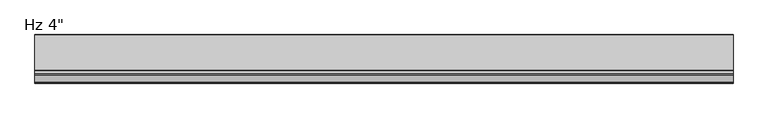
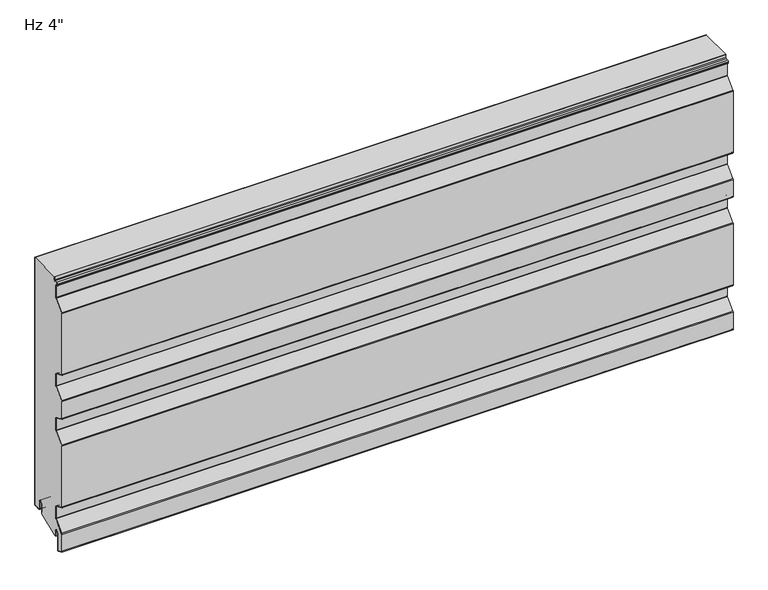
"""IFC4 building model written with IfcOpenShell, lengths in millimetres: plate geometry."""

from ifc_helpers import new_model, si_unit, point, frame, frame_2d, origin, place, context, project, spatial, polyline, circle_curve, trimmed, segment, composite_curve, outline, extrude, source, transform, mapped, element, save


def plate_ea53c9ee(model_context):
    return source(origin(), model_context, "Body", "SweptSolid", [
        extrude(outline(composite_curve([segment(polyline([(-26.4011912, 19.05), (-26.4011912, -3.1976612), (-74.633822, -23.01875), (-76.7886912, -23.01875), (-76.7886912, -11.90625)]), True, "CONTINUOUS"), segment(trimmed(circle_curve(frame_2d((-81.7574412, -11.90625)), 4.96875), [point((-76.7886912, -11.90625))], [point((-86.7261912, -11.90625))], True, "CARTESIAN"), True, "CONTINUOUS"), segment(polyline([(-86.7261912, -11.90625), (-86.7261912, -48.8194049)]), True, "CONTINUOUS"), segment(trimmed(circle_curve(frame_2d((-88.1074412, -48.8194049)), 1.38125), [point((-86.7261912, -48.8194049))], [point((-88.6666208, -50.0824052))], False, "CARTESIAN"), True, "CONTINUOUS"), segment(polyline([(-88.6666208, -50.0824052), (-99.7779296, -45.1629946)]), True, "CONTINUOUS"), segment(trimmed(circle_curve(frame_2d((-99.21875, -43.8999943)), 1.38125), [point((-99.7779296, -45.1629946))], [point((-100.6, -43.8999943))], False, "CARTESIAN"), True, "CONTINUOUS"), segment(polyline([(-100.6, -43.8999943), (-100.6, -5.0536946)]), True, "CONTINUOUS"), segment(trimmed(circle_curve(frame_2d((-98.5012, -5.0536946)), 2.0988), [point((-100.6, -5.0536946))], [point((-100.0092077, -3.5939431))], False, "CARTESIAN"), True, "CONTINUOUS"), segment(polyline([(-100.0092077, -3.5939431), (-79.8145567, 17.2682996)]), True, "CONTINUOUS"), segment(trimmed(circle_curve(frame_2d((-81.6737, 19.0679503)), 2.5875), [point((-79.8145567, 17.2682996))], [point((-79.0862, 19.0679503))], True, "CARTESIAN"), True, "CONTINUOUS"), segment(polyline([(-79.0862, 19.0679503), (-79.0862, 45.5917981)]), True, "CONTINUOUS"), segment(trimmed(circle_curve(frame_2d((-81.6737, 45.5917981)), 2.5875), [point((-79.0862, 45.5917981))], [point((-80.6261871, 47.9577806))], True, "CARTESIAN"), True, "CONTINUOUS"), segment(polyline([(-80.6261871, 47.9577806), (-99.7779296, 56.4370054)]), True, "CONTINUOUS"), segment(trimmed(circle_curve(frame_2d((-99.21875, 57.7000057)), 1.38125), [point((-99.7779296, 56.4370054))], [point((-100.6, 57.7000057))], False, "CARTESIAN"), True, "CONTINUOUS"), segment(polyline([(-100.6, 57.7000057), (-100.6, 198.4367131)]), True, "CONTINUOUS"), segment(trimmed(circle_curve(frame_2d((-99.21875, 198.4367131)), 1.38125), [point((-100.6, 198.4367131))], [point((-100.2111912, 199.3973962))], False, "CARTESIAN"), True, "CONTINUOUS"), segment(polyline([(-100.2111912, 199.3973962), (-79.8145567, 220.4682996)]), True, "CONTINUOUS"), segment(trimmed(circle_curve(frame_2d((-81.6737, 222.2679503)), 2.5875), [point((-79.8145567, 220.4682996))], [point((-79.0862, 222.2679503))], True, "CARTESIAN"), True, "CONTINUOUS"), segment(polyline([(-79.0862, 222.2679503), (-79.0862, 248.7917981)]), True, "CONTINUOUS"), segment(trimmed(circle_curve(frame_2d((-81.6737, 248.7917981)), 2.5875), [point((-79.0862, 248.7917981))], [point((-80.6261871, 251.1577806))], True, "CARTESIAN"), True, "CONTINUOUS"), segment(polyline([(-80.6261871, 251.1577806), (-99.7779296, 259.6370054)]), True, "CONTINUOUS"), segment(trimmed(circle_curve(frame_2d((-99.21875, 260.9000057)), 1.38125), [point((-99.7779296, 259.6370054))], [point((-100.6, 260.9000057))], False, "CARTESIAN"), True, "CONTINUOUS"), segment(polyline([(-100.6, 260.9000057), (-100.6, 300.0367131)]), True, "CONTINUOUS"), segment(trimmed(circle_curve(frame_2d((-99.21875, 300.0367131)), 1.38125), [point((-100.6, 300.0367131))], [point((-100.2111912, 300.9973962))], False, "CARTESIAN"), True, "CONTINUOUS"), segment(polyline([(-100.2111912, 300.9973962), (-79.8145567, 322.0682996)]), True, "CONTINUOUS"), segment(trimmed(circle_curve(frame_2d((-81.6737, 323.8679503)), 2.5875), [point((-79.8145567, 322.0682996))], [point((-79.0862, 323.8679503))], True, "CARTESIAN"), True, "CONTINUOUS"), segment(polyline([(-79.0862, 323.8679503), (-79.0862, 350.3917981)]), True, "CONTINUOUS"), segment(trimmed(circle_curve(frame_2d((-81.6737, 350.3917981)), 2.5875), [point((-79.0862, 350.3917981))], [point((-80.6261871, 352.7577806))], True, "CARTESIAN"), True, "CONTINUOUS"), segment(polyline([(-80.6261871, 352.7577806), (-99.7779296, 361.2370054)]), True, "CONTINUOUS"), segment(trimmed(circle_curve(frame_2d((-99.21875, 362.5000057)), 1.38125), [point((-99.7779296, 361.2370054))], [point((-100.6, 362.5000057))], False, "CARTESIAN"), True, "CONTINUOUS"), segment(polyline([(-100.6, 362.5000057), (-100.6, 503.2367131)]), True, "CONTINUOUS"), segment(trimmed(circle_curve(frame_2d((-99.21875, 503.2367131)), 1.38125), [point((-100.6, 503.2367131))], [point((-100.2111912, 504.1973962))], False, "CARTESIAN"), True, "CONTINUOUS"), segment(polyline([(-100.2111912, 504.1973962), (-79.8145567, 525.2682996)]), True, "CONTINUOUS"), segment(trimmed(circle_curve(frame_2d((-81.6737, 527.0679503)), 2.5875), [point((-79.8145567, 525.2682996))], [point((-79.0862, 527.0679503))], True, "CARTESIAN"), True, "CONTINUOUS"), segment(polyline([(-79.0862, 527.0679503), (-79.0862, 553.5917981)]), True, "CONTINUOUS"), segment(trimmed(circle_curve(frame_2d((-81.6737, 553.5917981)), 2.5875), [point((-79.0862, 553.5917981))], [point((-80.6261871, 555.9577806))], True, "CARTESIAN"), True, "CONTINUOUS"), segment(polyline([(-80.6261871, 555.9577806), (-82.3166208, 556.7062016)]), True, "CONTINUOUS"), segment(trimmed(circle_curve(frame_2d((-81.7574412, 557.9692019)), 1.38125), [point((-82.3166208, 556.7062016))], [point((-83.1386912, 557.9692019))], False, "CARTESIAN"), True, "CONTINUOUS"), segment(polyline([(-83.1386912, 557.9692019), (-83.1386912, 560.2967085)]), True, "CONTINUOUS"), segment(trimmed(circle_curve(frame_2d((-81.7574412, 560.2967085)), 1.38125), [point((-83.1386912, 560.2967085))], [point((-81.8297302, 561.6760655))], False, "CARTESIAN"), True, "CONTINUOUS"), segment(polyline([(-81.8297302, 561.6760655), (-76.0657719, 561.9781418)]), True, "CONTINUOUS"), segment(trimmed(circle_curve(frame_2d((-76.2011912, 564.5620957)), 2.5875), [point((-76.0657719, 561.9781418))], [point((-73.6136912, 564.5620957))], True, "CARTESIAN"), True, "CONTINUOUS"), segment(polyline([(-73.6136912, 564.5620957), (-73.6136912, 571.2), (-1.0011912, 571.2), (-1.0011912, 3.175)]), True, "CONTINUOUS"), segment(trimmed(circle_curve(frame_2d((-2.3824412, 3.175)), 1.38125), [point((-1.0011912, 3.175))], [point((-2.3824412, 1.79375))], False, "CARTESIAN"), True, "CONTINUOUS"), segment(polyline([(-2.3824412, 1.79375), (-15.0824412, 1.79375)]), True, "CONTINUOUS"), segment(trimmed(circle_curve(frame_2d((-15.0824412, 3.175)), 1.38125), [point((-15.0824412, 1.79375))], [point((-16.4636912, 3.175))], False, "CARTESIAN"), True, "CONTINUOUS"), segment(polyline([(-16.4636912, 3.175), (-16.4636912, 19.05)]), True, "CONTINUOUS"), segment(trimmed(circle_curve(frame_2d((-21.4324412, 19.05)), 4.96875), [point((-16.4636912, 19.05))], [point((-26.4011912, 19.05))], True, "CARTESIAN"), True, "CONTINUOUS")], self_intersect=False)), frame((-730.0, 0.0, 0.0), z_axis=(1.0, 0.0, 0.0), x_axis=(0.0, 1.0, 0.0)), (0.0, 0.0, 1.0), 1460.0),
        extrude(outline(composite_curve([segment(polyline([(-25.4, 0.79375), (-26.4, 0.79375), (-26.4, 19.05)]), True, "CONTINUOUS"), segment(trimmed(circle_curve(frame_2d((-21.43125, 19.05)), 4.96875), [point((-26.4, 19.05))], [point((-16.4625, 19.05))], False, "CARTESIAN"), True, "CONTINUOUS"), segment(polyline([(-16.4625, 19.05), (-16.4625, 3.175)]), True, "CONTINUOUS"), segment(trimmed(circle_curve(frame_2d((-15.08125, 3.175)), 1.38125), [point((-16.4625, 3.175))], [point((-15.08125, 1.79375))], True, "CARTESIAN"), True, "CONTINUOUS"), segment(polyline([(-15.08125, 1.79375), (-2.38125, 1.79375)]), True, "CONTINUOUS"), segment(trimmed(circle_curve(frame_2d((-2.38125, 3.175)), 1.38125), [point((-2.38125, 1.79375))], [point((-1.0, 3.175))], True, "CARTESIAN"), True, "CONTINUOUS"), segment(polyline([(-1.0, 3.175), (-1.0, 571.2), (0.0, 571.2), (0.0, 3.175)]), True, "CONTINUOUS"), segment(trimmed(circle_curve(frame_2d((-2.38125, 3.175)), 2.38125), [point((0.0, 3.175))], [point((-2.38125, 0.79375))], False, "CARTESIAN"), True, "CONTINUOUS"), segment(polyline([(-2.38125, 0.79375), (-15.08125, 0.79375)]), True, "CONTINUOUS"), segment(trimmed(circle_curve(frame_2d((-15.08125, 3.175)), 2.38125), [point((-15.08125, 0.79375))], [point((-17.4625, 3.175))], False, "CARTESIAN"), True, "CONTINUOUS"), segment(polyline([(-17.4625, 3.175), (-17.4625, 19.05)]), True, "CONTINUOUS"), segment(trimmed(circle_curve(frame_2d((-21.43125, 19.05)), 3.96875), [point((-17.4625, 19.05))], [point((-25.4, 19.05))], True, "CARTESIAN"), True, "CONTINUOUS"), segment(polyline([(-25.4, 19.05), (-25.4, 0.79375)]), True, "CONTINUOUS")], self_intersect=False)), frame((-730.0, 0.0, 0.0), z_axis=(1.0, 0.0, 0.0), x_axis=(0.0, 1.0, 0.0)), (0.0, 0.0, 1.0), 1460.0),
        extrude(outline(composite_curve([segment(polyline([(-85.7261912, -11.90625), (-85.7261912, -48.8194049)]), True, "CONTINUOUS"), segment(trimmed(circle_curve(frame_2d((-88.1074412, -48.8194049)), 2.38125), [point((-85.7261912, -48.8194049))], [point((-89.0714567, -50.9967946))], False, "CARTESIAN"), True, "CONTINUOUS"), segment(polyline([(-89.0714567, -50.9967946), (-100.1827655, -46.0773839)]), True, "CONTINUOUS"), segment(trimmed(circle_curve(frame_2d((-99.21875, -43.8999943)), 2.38125), [point((-100.1827655, -46.0773839))], [point((-101.6, -43.8999943))], False, "CARTESIAN"), True, "CONTINUOUS"), segment(polyline([(-101.6, -43.8999943), (-101.6, -5.0536946)]), True, "CONTINUOUS"), segment(trimmed(circle_curve(frame_2d((-98.5012, -5.0536946)), 3.0988), [point((-101.6, -5.0536946))], [point((-100.7277172, -2.8984259))], False, "CARTESIAN"), True, "CONTINUOUS"), segment(polyline([(-100.7277172, -2.8984259), (-80.5330662, 17.9638168)]), True, "CONTINUOUS"), segment(trimmed(circle_curve(frame_2d((-81.6737, 19.0679503)), 1.5875), [point((-80.5330662, 17.9638168))], [point((-80.0862, 19.0679503))], True, "CARTESIAN"), True, "CONTINUOUS"), segment(polyline([(-80.0862, 19.0679503), (-80.0862, 45.5917981)]), True, "CONTINUOUS"), segment(trimmed(circle_curve(frame_2d((-81.6737, 45.5917981)), 1.5875), [point((-80.0862, 45.5917981))], [point((-81.031023, 47.0433912))], True, "CARTESIAN"), True, "CONTINUOUS"), segment(polyline([(-81.031023, 47.0433912), (-100.1827655, 55.5226161)]), True, "CONTINUOUS"), segment(trimmed(circle_curve(frame_2d((-99.21875, 57.7000057)), 2.38125), [point((-100.1827655, 55.5226161))], [point((-101.6, 57.7000057))], False, "CARTESIAN"), True, "CONTINUOUS"), segment(polyline([(-101.6, 57.7000057), (-101.6, 198.4367131)]), True, "CONTINUOUS"), segment(trimmed(circle_curve(frame_2d((-99.21875, 198.4367131)), 2.38125), [point((-101.6, 198.4367131))], [point((-100.9297007, 200.0929134))], False, "CARTESIAN"), True, "CONTINUOUS"), segment(polyline([(-100.9297007, 200.0929134), (-80.5330662, 221.1638168)]), True, "CONTINUOUS"), segment(trimmed(circle_curve(frame_2d((-81.6737, 222.2679503)), 1.5875), [point((-80.5330662, 221.1638168))], [point((-80.0862, 222.2679503))], True, "CARTESIAN"), True, "CONTINUOUS"), segment(polyline([(-80.0862, 222.2679503), (-80.0862, 248.7917981)]), True, "CONTINUOUS"), segment(trimmed(circle_curve(frame_2d((-81.6737, 248.7917981)), 1.5875), [point((-80.0862, 248.7917981))], [point((-81.031023, 250.2433912))], True, "CARTESIAN"), True, "CONTINUOUS"), segment(polyline([(-81.031023, 250.2433912), (-100.1827655, 258.7226161)]), True, "CONTINUOUS"), segment(trimmed(circle_curve(frame_2d((-99.21875, 260.9000057)), 2.38125), [point((-100.1827655, 258.7226161))], [point((-101.6, 260.9000057))], False, "CARTESIAN"), True, "CONTINUOUS"), segment(polyline([(-101.6, 260.9000057), (-101.6, 300.0367131)]), True, "CONTINUOUS"), segment(trimmed(circle_curve(frame_2d((-99.21875, 300.0367131)), 2.38125), [point((-101.6, 300.0367131))], [point((-100.9297007, 301.6929134))], False, "CARTESIAN"), True, "CONTINUOUS"), segment(polyline([(-100.9297007, 301.6929134), (-80.5330662, 322.7638168)]), True, "CONTINUOUS"), segment(trimmed(circle_curve(frame_2d((-81.6737, 323.8679503)), 1.5875), [point((-80.5330662, 322.7638168))], [point((-80.0862, 323.8679503))], True, "CARTESIAN"), True, "CONTINUOUS"), segment(polyline([(-80.0862, 323.8679503), (-80.0862, 350.3917981)]), True, "CONTINUOUS"), segment(trimmed(circle_curve(frame_2d((-81.6737, 350.3917981)), 1.5875), [point((-80.0862, 350.3917981))], [point((-81.031023, 351.8433912))], True, "CARTESIAN"), True, "CONTINUOUS"), segment(polyline([(-81.031023, 351.8433912), (-100.1827655, 360.3226161)]), True, "CONTINUOUS"), segment(trimmed(circle_curve(frame_2d((-99.21875, 362.5000057)), 2.38125), [point((-100.1827655, 360.3226161))], [point((-101.6, 362.5000057))], False, "CARTESIAN"), True, "CONTINUOUS"), segment(polyline([(-101.6, 362.5000057), (-101.6, 503.2367131)]), True, "CONTINUOUS"), segment(trimmed(circle_curve(frame_2d((-99.21875, 503.2367131)), 2.38125), [point((-101.6, 503.2367131))], [point((-100.9297007, 504.8929134))], False, "CARTESIAN"), True, "CONTINUOUS"), segment(polyline([(-100.9297007, 504.8929134), (-80.5330662, 525.9638168)]), True, "CONTINUOUS"), segment(trimmed(circle_curve(frame_2d((-81.6737, 527.0679503)), 1.5875), [point((-80.5330662, 525.9638168))], [point((-80.0862, 527.0679503))], True, "CARTESIAN"), True, "CONTINUOUS"), segment(polyline([(-80.0862, 527.0679503), (-80.0862, 553.5917981)]), True, "CONTINUOUS"), segment(trimmed(circle_curve(frame_2d((-81.6737, 553.5917981)), 1.5875), [point((-80.0862, 553.5917981))], [point((-81.031023, 555.0433912))], True, "CARTESIAN"), True, "CONTINUOUS"), segment(polyline([(-81.031023, 555.0433912), (-82.7214567, 555.7918123)]), True, "CONTINUOUS"), segment(trimmed(circle_curve(frame_2d((-81.7574412, 557.9692019)), 2.38125), [point((-82.7214567, 555.7918123))], [point((-84.1386912, 557.9692019))], False, "CARTESIAN"), True, "CONTINUOUS"), segment(polyline([(-84.1386912, 557.9692019), (-84.1386912, 560.2967085)]), True, "CONTINUOUS"), segment(trimmed(circle_curve(frame_2d((-81.7574412, 560.2967085)), 2.38125), [point((-84.1386912, 560.2967085))], [point((-81.8820662, 562.6746951))], False, "CARTESIAN"), True, "CONTINUOUS"), segment(polyline([(-81.8820662, 562.6746951), (-76.1181078, 562.9767713)]), True, "CONTINUOUS"), segment(trimmed(circle_curve(frame_2d((-76.2011912, 564.5620957)), 1.5875), [point((-76.1181078, 562.9767713))], [point((-74.6136912, 564.5620957))], True, "CARTESIAN"), True, "CONTINUOUS"), segment(polyline([(-74.6136912, 564.5620957), (-74.6136912, 571.2), (-73.6136912, 571.2), (-73.6136912, 564.5620957)]), True, "CONTINUOUS"), segment(trimmed(circle_curve(frame_2d((-76.2011912, 564.5620957)), 2.5875), [point((-73.6136912, 564.5620957))], [point((-76.0657719, 561.9781418))], False, "CARTESIAN"), True, "CONTINUOUS"), segment(polyline([(-76.0657719, 561.9781418), (-81.8297302, 561.6760655)]), True, "CONTINUOUS"), segment(trimmed(circle_curve(frame_2d((-81.7574412, 560.2967085)), 1.38125), [point((-81.8297302, 561.6760655))], [point((-83.1386912, 560.2967085))], True, "CARTESIAN"), True, "CONTINUOUS"), segment(polyline([(-83.1386912, 560.2967085), (-83.1386912, 557.9692019)]), True, "CONTINUOUS"), segment(trimmed(circle_curve(frame_2d((-81.7574412, 557.9692019)), 1.38125), [point((-83.1386912, 557.9692019))], [point((-82.3166208, 556.7062016))], True, "CARTESIAN"), True, "CONTINUOUS"), segment(polyline([(-82.3166208, 556.7062016), (-80.6261871, 555.9577806)]), True, "CONTINUOUS"), segment(trimmed(circle_curve(frame_2d((-81.6737, 553.5917981)), 2.5875), [point((-80.6261871, 555.9577806))], [point((-79.0862, 553.5917981))], False, "CARTESIAN"), True, "CONTINUOUS"), segment(polyline([(-79.0862, 553.5917981), (-79.0862, 527.0679503)]), True, "CONTINUOUS"), segment(trimmed(circle_curve(frame_2d((-81.6737, 527.0679503)), 2.5875), [point((-79.0862, 527.0679503))], [point((-79.8145567, 525.2682996))], False, "CARTESIAN"), True, "CONTINUOUS"), segment(polyline([(-79.8145567, 525.2682996), (-100.2111912, 504.1973962)]), True, "CONTINUOUS"), segment(trimmed(circle_curve(frame_2d((-99.21875, 503.2367131)), 1.38125), [point((-100.2111912, 504.1973962))], [point((-100.6, 503.2367131))], True, "CARTESIAN"), True, "CONTINUOUS"), segment(polyline([(-100.6, 503.2367131), (-100.6, 362.5000057)]), True, "CONTINUOUS"), segment(trimmed(circle_curve(frame_2d((-99.21875, 362.5000057)), 1.38125), [point((-100.6, 362.5000057))], [point((-99.7779296, 361.2370054))], True, "CARTESIAN"), True, "CONTINUOUS"), segment(polyline([(-99.7779296, 361.2370054), (-80.6261871, 352.7577806)]), True, "CONTINUOUS"), segment(trimmed(circle_curve(frame_2d((-81.6737, 350.3917981)), 2.5875), [point((-80.6261871, 352.7577806))], [point((-79.0862, 350.3917981))], False, "CARTESIAN"), True, "CONTINUOUS"), segment(polyline([(-79.0862, 350.3917981), (-79.0862, 323.8679503)]), True, "CONTINUOUS"), segment(trimmed(circle_curve(frame_2d((-81.6737, 323.8679503)), 2.5875), [point((-79.0862, 323.8679503))], [point((-79.8145567, 322.0682996))], False, "CARTESIAN"), True, "CONTINUOUS"), segment(polyline([(-79.8145567, 322.0682996), (-100.2111912, 300.9973962)]), True, "CONTINUOUS"), segment(trimmed(circle_curve(frame_2d((-99.21875, 300.0367131)), 1.38125), [point((-100.2111912, 300.9973962))], [point((-100.6, 300.0367131))], True, "CARTESIAN"), True, "CONTINUOUS"), segment(polyline([(-100.6, 300.0367131), (-100.6, 260.9000057)]), True, "CONTINUOUS"), segment(trimmed(circle_curve(frame_2d((-99.21875, 260.9000057)), 1.38125), [point((-100.6, 260.9000057))], [point((-99.7779296, 259.6370054))], True, "CARTESIAN"), True, "CONTINUOUS"), segment(polyline([(-99.7779296, 259.6370054), (-80.6261871, 251.1577806)]), True, "CONTINUOUS"), segment(trimmed(circle_curve(frame_2d((-81.6737, 248.7917981)), 2.5875), [point((-80.6261871, 251.1577806))], [point((-79.0862, 248.7917981))], False, "CARTESIAN"), True, "CONTINUOUS"), segment(polyline([(-79.0862, 248.7917981), (-79.0862, 222.2679503)]), True, "CONTINUOUS"), segment(trimmed(circle_curve(frame_2d((-81.6737, 222.2679503)), 2.5875), [point((-79.0862, 222.2679503))], [point((-79.8145567, 220.4682996))], False, "CARTESIAN"), True, "CONTINUOUS"), segment(polyline([(-79.8145567, 220.4682996), (-100.2111912, 199.3973962)]), True, "CONTINUOUS"), segment(trimmed(circle_curve(frame_2d((-99.21875, 198.4367131)), 1.38125), [point((-100.2111912, 199.3973962))], [point((-100.6, 198.4367131))], True, "CARTESIAN"), True, "CONTINUOUS"), segment(polyline([(-100.6, 198.4367131), (-100.6, 57.7000057)]), True, "CONTINUOUS"), segment(trimmed(circle_curve(frame_2d((-99.21875, 57.7000057)), 1.38125), [point((-100.6, 57.7000057))], [point((-99.7779296, 56.4370054))], True, "CARTESIAN"), True, "CONTINUOUS"), segment(polyline([(-99.7779296, 56.4370054), (-80.6261871, 47.9577806)]), True, "CONTINUOUS"), segment(trimmed(circle_curve(frame_2d((-81.6737, 45.5917981)), 2.5875), [point((-80.6261871, 47.9577806))], [point((-79.0862, 45.5917981))], False, "CARTESIAN"), True, "CONTINUOUS"), segment(polyline([(-79.0862, 45.5917981), (-79.0862, 19.0679503)]), True, "CONTINUOUS"), segment(trimmed(circle_curve(frame_2d((-81.6737, 19.0679503)), 2.5875), [point((-79.0862, 19.0679503))], [point((-79.8145567, 17.2682996))], False, "CARTESIAN"), True, "CONTINUOUS"), segment(polyline([(-79.8145567, 17.2682996), (-100.0092077, -3.5939431)]), True, "CONTINUOUS"), segment(trimmed(circle_curve(frame_2d((-98.5012, -5.0536946)), 2.0988), [point((-100.0092077, -3.5939431))], [point((-100.6, -5.0536946))], True, "CARTESIAN"), True, "CONTINUOUS"), segment(polyline([(-100.6, -5.0536946), (-100.6, -43.8999943)]), True, "CONTINUOUS"), segment(trimmed(circle_curve(frame_2d((-99.21875, -43.8999943)), 1.38125), [point((-100.6, -43.8999943))], [point((-99.7779296, -45.1629946))], True, "CARTESIAN"), True, "CONTINUOUS"), segment(polyline([(-99.7779296, -45.1629946), (-88.6666208, -50.0824052)]), True, "CONTINUOUS"), segment(trimmed(circle_curve(frame_2d((-88.1074412, -48.8194049)), 1.38125), [point((-88.6666208, -50.0824052))], [point((-86.7261912, -48.8194049))], True, "CARTESIAN"), True, "CONTINUOUS"), segment(polyline([(-86.7261912, -48.8194049), (-86.7261912, -11.90625)]), True, "CONTINUOUS"), segment(trimmed(circle_curve(frame_2d((-81.7574412, -11.90625)), 4.96875), [point((-86.7261912, -11.90625))], [point((-76.7886912, -11.90625))], False, "CARTESIAN"), True, "CONTINUOUS"), segment(polyline([(-76.7886912, -11.90625), (-76.7886912, -23.01875), (-77.7886912, -23.01875), (-77.7886912, -11.90625)]), True, "CONTINUOUS"), segment(trimmed(circle_curve(frame_2d((-81.7574412, -11.90625)), 3.96875), [point((-77.7886912, -11.90625))], [point((-85.7261912, -11.90625))], True, "CARTESIAN"), True, "CONTINUOUS")], self_intersect=False)), frame((-730.0, 0.0, 0.0), z_axis=(1.0, 0.0, 0.0), x_axis=(0.0, 1.0, 0.0)), (0.0, 0.0, 1.0), 1460.0),
    ])


if __name__ == "__main__":
    model = new_model("IFC4")
    model_context = context("Model", 3, world=origin())
    ifc_project = project(units=[si_unit("LENGTHUNIT", "METRE", prefix="MILLI")], contexts=[model_context])
    site = spatial("IfcSite", under=ifc_project)
    building = spatial("IfcBuilding", under=site)
    placement = place(None, origin())
    plate_shape = plate_ea53c9ee(model_context)
    element("IfcPlate", 1, ObjectType="KIP-24-DWR-R19-CP-Hz-A : Hz 4\"", at=placement, inside=building, context=model_context, shape_type="MappedRepresentation", body=[
        mapped(plate_shape, transform((0.0, 0.0, 0.0), x_axis=(1.0, 0.0, 0.0), y_axis=(0.0, 1.0, 0.0), z_axis=(0.0, 0.0, 1.0))),
    ])
    save(model, "model.ifc")
